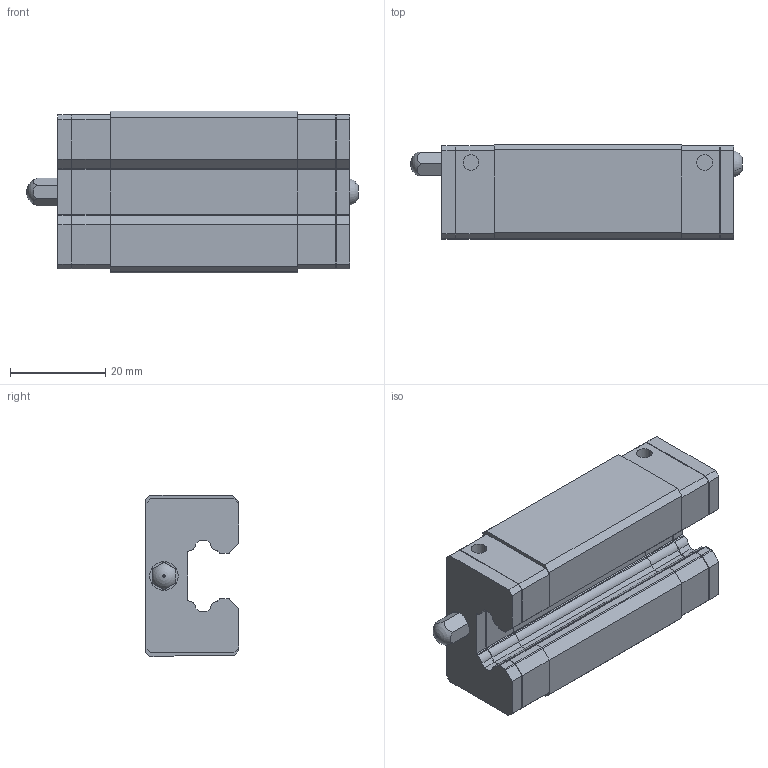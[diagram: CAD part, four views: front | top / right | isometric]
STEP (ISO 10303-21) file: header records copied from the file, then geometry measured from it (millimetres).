
FILE_DESCRIPTION (( 'STEP AP203' ), '1' );
FILE_NAME ('SGLCA.STEP', '2025-06-27T05:14:55', ( 'Owner' ), ( 'Organization' ), 'SwSTEP 2.0', 'SolidWorks 2020', '' );
FILE_SCHEMA (( 'CONFIG_CONTROL_DESIGN' ));
Length unit declared in the file: millimetre
Products named in the file (1): SGLCA
Bounding box: 69.76 x 19.7 x 34 mm (x, y, z)
Volume: 31589.8 mm3; surface area: 13827.5 mm2
Topology: 7 solids, 7 shells, 367 faces, 951 edges, 614 vertices
Faces by surface type: plane 237, cylinder 102, cone 24, sphere 2, torus 2
Entity records: 11286 total; most frequent: CARTESIAN_POINT 2145, ORIENTED_EDGE 1894, DIRECTION 1867, EDGE_CURVE 947, VECTOR 683, LINE 683, VERTEX_POINT 612, AXIS2_PLACEMENT_3D 592
